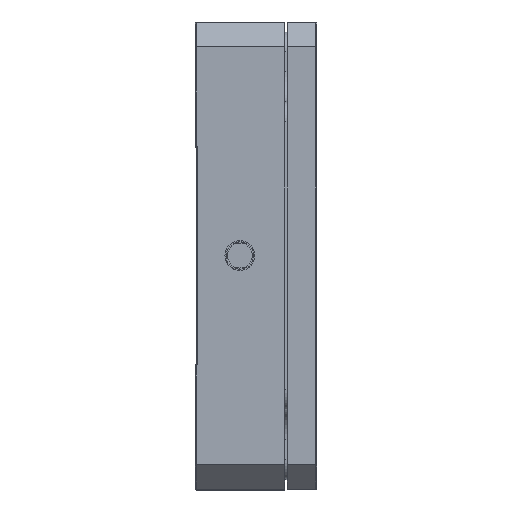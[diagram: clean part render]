
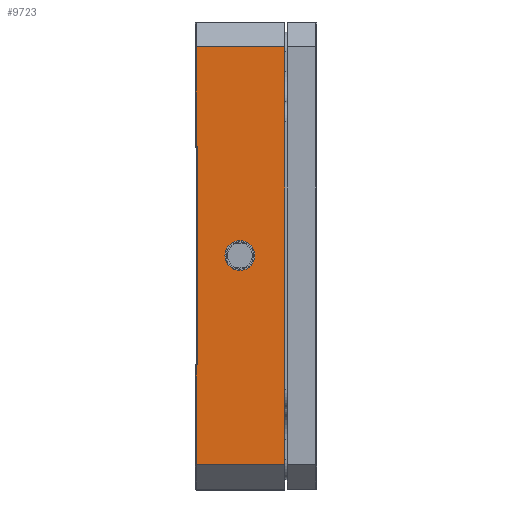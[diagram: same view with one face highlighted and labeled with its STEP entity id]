
A CAD part, top view. The second image highlights one B-rep face of the part: STEP entity #9723.
In plain terms, the highlighted planar face has unit normal (0, 0, 1).
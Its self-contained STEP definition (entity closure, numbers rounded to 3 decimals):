
#494 = VECTOR ( 'NONE', #11090, 1000. ) ;
#543 = DIRECTION ( 'NONE',  ( 0., -1., 0. ) ) ;
#739 = VERTEX_POINT ( 'NONE', #5127 ) ;
#778 = CARTESIAN_POINT ( 'NONE',  ( 44.921, -35.479, 47. ) ) ;
#827 = LINE ( 'NONE', #7149, #2570 ) ;
#877 = AXIS2_PLACEMENT_3D ( 'NONE', #3874, #11943, #12072 ) ;
#882 = EDGE_CURVE ( 'NONE', #1221, #1301, #10819, .T. ) ;
#923 = LINE ( 'NONE', #13107, #7460 ) ;
#970 = CARTESIAN_POINT ( 'NONE',  ( 44.921, -35.479, 47. ) ) ;
#1042 = CARTESIAN_POINT ( 'NONE',  ( 53.521, -13.479, 47. ) ) ;
#1127 = LINE ( 'NONE', #3068, #494 ) ;
#1221 = VERTEX_POINT ( 'NONE', #5234 ) ;
#1259 = CARTESIAN_POINT ( 'NONE',  ( 62.521, 28.521, 47. ) ) ;
#1301 = VERTEX_POINT ( 'NONE', #2377 ) ;
#1498 = ORIENTED_EDGE ( 'NONE', *, *, #7538, .T. ) ;
#1685 = VECTOR ( 'NONE', #10845, 1000. ) ;
#1816 = ORIENTED_EDGE ( 'NONE', *, *, #11369, .T. ) ;
#1826 = ORIENTED_EDGE ( 'NONE', *, *, #882, .T. ) ;
#2118 = DIRECTION ( 'NONE',  ( 0., -1., 0. ) ) ;
#2182 = DIRECTION ( 'NONE',  ( -1., 0., 0. ) ) ;
#2335 = VERTEX_POINT ( 'NONE', #8729 ) ;
#2377 = CARTESIAN_POINT ( 'NONE',  ( 44.721, 28.521, 47. ) ) ;
#2480 = FACE_BOUND ( 'NONE', #8340, .T. ) ;
#2570 = VECTOR ( 'NONE', #11163, 1000. ) ;
#2748 = ORIENTED_EDGE ( 'NONE', *, *, #3441, .T. ) ;
#2874 = LINE ( 'NONE', #778, #8290 ) ;
#3026 = CARTESIAN_POINT ( 'NONE',  ( 44.721, -35.479, 47. ) ) ;
#3068 = CARTESIAN_POINT ( 'NONE',  ( 44.721, -35.479, 47. ) ) ;
#3203 = EDGE_CURVE ( 'NONE', #1221, #3740, #11734, .T. ) ;
#3441 = EDGE_CURVE ( 'NONE', #8319, #3740, #11082, .T. ) ;
#3740 = VERTEX_POINT ( 'NONE', #7100 ) ;
#3749 = VECTOR ( 'NONE', #543, 1000. ) ;
#3785 = CARTESIAN_POINT ( 'NONE',  ( 62.521, -55.479, 47. ) ) ;
#3874 = CARTESIAN_POINT ( 'NONE',  ( 62.521, 33.521, 47. ) ) ;
#4039 = AXIS2_PLACEMENT_3D ( 'NONE', #4615, #10540, #4444 ) ;
#4172 = VERTEX_POINT ( 'NONE', #8819 ) ;
#4194 = ORIENTED_EDGE ( 'NONE', *, *, #3203, .F. ) ;
#4444 = DIRECTION ( 'NONE',  ( 0., 1., 0. ) ) ;
#4615 = CARTESIAN_POINT ( 'NONE',  ( 53.521, -13.479, 47. ) ) ;
#4949 = EDGE_CURVE ( 'NONE', #5034, #6544, #1127, .T. ) ;
#5034 = VERTEX_POINT ( 'NONE', #970 ) ;
#5127 = CARTESIAN_POINT ( 'NONE',  ( 44.721, 8.521, 47. ) ) ;
#5234 = CARTESIAN_POINT ( 'NONE',  ( 62.521, 28.521, 47. ) ) ;
#5286 = DIRECTION ( 'NONE',  ( 0., -1., 0. ) ) ;
#5379 = CARTESIAN_POINT ( 'NONE',  ( 62.521, 33.521, 47. ) ) ;
#5645 = CARTESIAN_POINT ( 'NONE',  ( 44.721, -55.479, 47. ) ) ;
#5885 = ORIENTED_EDGE ( 'NONE', *, *, #11895, .T. ) ;
#5938 = ORIENTED_EDGE ( 'NONE', *, *, #8989, .T. ) ;
#6438 = EDGE_LOOP ( 'NONE', ( #13058, #1498, #2748, #4194, #1826, #5938, #1816, #5885 ) ) ;
#6544 = VERTEX_POINT ( 'NONE', #3026 ) ;
#6644 = CARTESIAN_POINT ( 'NONE',  ( 44.721, 33.521, 47. ) ) ;
#6820 = DIRECTION ( 'NONE',  ( 0., 1., 0. ) ) ;
#6945 = PLANE ( 'NONE',  #877 ) ;
#7100 = CARTESIAN_POINT ( 'NONE',  ( 62.521, -55.479, 47. ) ) ;
#7149 = CARTESIAN_POINT ( 'NONE',  ( 44.721, 8.521, 47. ) ) ;
#7460 = VECTOR ( 'NONE', #2118, 1000. ) ;
#7538 = EDGE_CURVE ( 'NONE', #6544, #8319, #10249, .T. ) ;
#7584 = CARTESIAN_POINT ( 'NONE',  ( 44.921, 8.521, 47. ) ) ;
#7904 = FACE_OUTER_BOUND ( 'NONE', #6438, .T. ) ;
#8290 = VECTOR ( 'NONE', #12931, 1000. ) ;
#8319 = VERTEX_POINT ( 'NONE', #5645 ) ;
#8340 = EDGE_LOOP ( 'NONE', ( #12880, #8926 ) ) ;
#8729 = CARTESIAN_POINT ( 'NONE',  ( 54.031, -16.435, 47. ) ) ;
#8819 = CARTESIAN_POINT ( 'NONE',  ( 53.012, -10.522, 47. ) ) ;
#8831 = CIRCLE ( 'NONE', #4039, 3. ) ;
#8926 = ORIENTED_EDGE ( 'NONE', *, *, #12537, .T. ) ;
#8989 = EDGE_CURVE ( 'NONE', #1301, #739, #923, .T. ) ;
#9544 = VERTEX_POINT ( 'NONE', #7584 ) ;
#9723 = ADVANCED_FACE ( 'NONE', ( #2480, #7904 ), #6945, .F. ) ;
#10006 = CIRCLE ( 'NONE', #11433, 3. ) ;
#10055 = EDGE_CURVE ( 'NONE', #4172, #2335, #8831, .T. ) ;
#10249 = LINE ( 'NONE', #6644, #3749 ) ;
#10472 = VECTOR ( 'NONE', #5286, 1000. ) ;
#10540 = DIRECTION ( 'NONE',  ( 0., 0., -1. ) ) ;
#10819 = LINE ( 'NONE', #1259, #12579 ) ;
#10845 = DIRECTION ( 'NONE',  ( 1., 0., 0. ) ) ;
#11082 = LINE ( 'NONE', #3785, #1685 ) ;
#11090 = DIRECTION ( 'NONE',  ( -1., 0., 0. ) ) ;
#11163 = DIRECTION ( 'NONE',  ( 1., 0., 0. ) ) ;
#11369 = EDGE_CURVE ( 'NONE', #739, #9544, #827, .T. ) ;
#11433 = AXIS2_PLACEMENT_3D ( 'NONE', #1042, #12390, #6820 ) ;
#11734 = LINE ( 'NONE', #5379, #10472 ) ;
#11895 = EDGE_CURVE ( 'NONE', #9544, #5034, #2874, .T. ) ;
#11943 = DIRECTION ( 'NONE',  ( 0., 0., -1. ) ) ;
#12072 = DIRECTION ( 'NONE',  ( 0., 1., 0. ) ) ;
#12390 = DIRECTION ( 'NONE',  ( 0., 0., -1. ) ) ;
#12537 = EDGE_CURVE ( 'NONE', #2335, #4172, #10006, .T. ) ;
#12579 = VECTOR ( 'NONE', #2182, 1000. ) ;
#12880 = ORIENTED_EDGE ( 'NONE', *, *, #10055, .T. ) ;
#12931 = DIRECTION ( 'NONE',  ( 0., -1., 0. ) ) ;
#13058 = ORIENTED_EDGE ( 'NONE', *, *, #4949, .T. ) ;
#13107 = CARTESIAN_POINT ( 'NONE',  ( 44.721, 33.521, 47. ) ) ;
